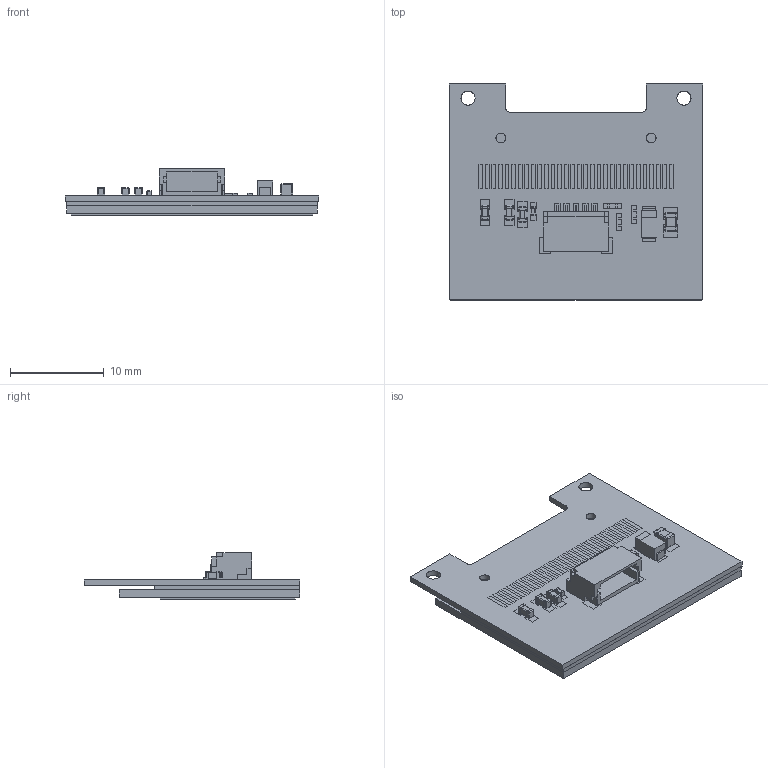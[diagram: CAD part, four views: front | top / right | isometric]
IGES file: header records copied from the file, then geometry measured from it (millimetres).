
Global section: file name: Filename.iges; native system: Open CASCADE 7.4; preprocessor: Open CASCADE IGES processor 7.4; date: 20200810.105414; units: millimetre
Bounding box: 27 x 23 x 4.94 mm (x, y, z)
Surface area: 2741.9 mm2 (no closed solid volume)
Topology: 0 solids, 0 shells, 789 faces, 4036 edges, 5780 vertices
Faces by surface type: plane 639, revolution 150
